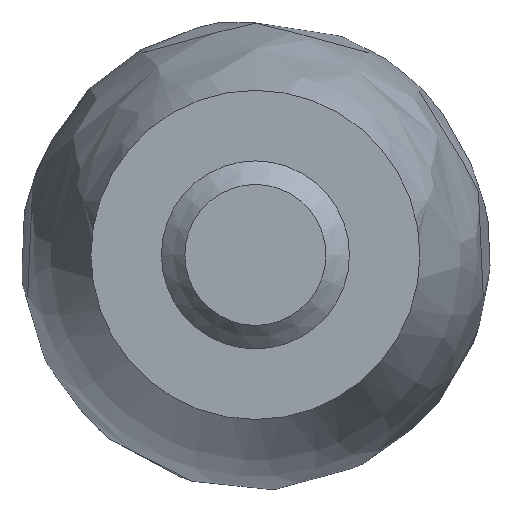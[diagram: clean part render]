
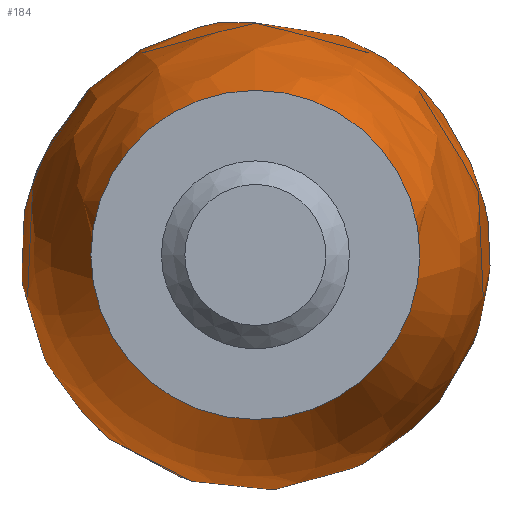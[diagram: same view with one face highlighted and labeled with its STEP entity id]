
A CAD part, left-side view. The second image highlights one B-rep face of the part: STEP entity #184.
In plain terms, the highlighted free-form (B-spline) face has degree [2, 2] with [3, 9] control points.
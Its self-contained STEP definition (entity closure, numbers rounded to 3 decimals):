
#16=(
BOUNDED_SURFACE()
B_SPLINE_SURFACE(2,2,((#358,#359,#360,#361,#362,#363,#364,#365,#366),(#367,
#368,#369,#370,#371,#372,#373,#374,#375),(#376,#377,#378,#379,#380,#381,
#382,#383,#384)),.UNSPECIFIED.,.F.,.T.,.F.)
B_SPLINE_SURFACE_WITH_KNOTS((3,3),(3,2,2,2,3),(-0.415,0.578),
(-3.142,-1.571,0.,1.571,3.142),
 .UNSPECIFIED.)
GEOMETRIC_REPRESENTATION_ITEM()
RATIONAL_B_SPLINE_SURFACE(((1.,0.707,1.,0.707,1.,
0.707,1.,0.707,1.),(0.879,0.622,
0.879,0.622,0.879,0.622,
0.879,0.622,0.879),(1.,0.707,
1.,0.707,1.,0.707,1.,0.707,1.)))
REPRESENTATION_ITEM('')
SURFACE()
);
#45=FACE_OUTER_BOUND('',#58,.T.);
#58=EDGE_LOOP('',(#166,#167,#168,#169));
#77=CIRCLE('',#236,3.305);
#78=CIRCLE('',#237,1.754);
#79=CIRCLE('',#238,20.);
#94=VERTEX_POINT('',#355);
#95=VERTEX_POINT('',#385);
#118=EDGE_CURVE('',#94,#94,#77,.T.);
#119=EDGE_CURVE('',#95,#95,#78,.T.);
#120=EDGE_CURVE('',#95,#94,#79,.T.);
#166=ORIENTED_EDGE('',*,*,#119,.F.);
#167=ORIENTED_EDGE('',*,*,#120,.T.);
#168=ORIENTED_EDGE('',*,*,#118,.T.);
#169=ORIENTED_EDGE('',*,*,#120,.F.);
#184=ADVANCED_FACE('',(#45),#16,.F.);
#236=AXIS2_PLACEMENT_3D('',#357,#301,#302);
#237=AXIS2_PLACEMENT_3D('',#386,#303,#304);
#238=AXIS2_PLACEMENT_3D('',#387,#305,#306);
#301=DIRECTION('center_axis',(1.,0.,0.));
#302=DIRECTION('ref_axis',(0.,1.,0.));
#303=DIRECTION('center_axis',(1.,0.,0.));
#304=DIRECTION('ref_axis',(0.,1.,0.));
#305=DIRECTION('center_axis',(0.,-1.,0.));
#306=DIRECTION('ref_axis',(0.,0.,1.));
#355=CARTESIAN_POINT('',(18.07,0.,3.305));
#357=CARTESIAN_POINT('Origin',(18.07,0.,0.));
#358=CARTESIAN_POINT('Ctrl Pts',(18.07,0.,
3.305));
#359=CARTESIAN_POINT('Ctrl Pts',(18.07,-3.305,3.305));
#360=CARTESIAN_POINT('Ctrl Pts',(18.07,-3.305,0.));
#361=CARTESIAN_POINT('Ctrl Pts',(18.07,-3.305,-3.305));
#362=CARTESIAN_POINT('Ctrl Pts',(18.07,0.,
-3.305));
#363=CARTESIAN_POINT('Ctrl Pts',(18.07,3.305,-3.305));
#364=CARTESIAN_POINT('Ctrl Pts',(18.07,3.305,0.));
#365=CARTESIAN_POINT('Ctrl Pts',(18.07,3.305,3.305));
#366=CARTESIAN_POINT('Ctrl Pts',(18.07,0.,
3.305));
#367=CARTESIAN_POINT('Ctrl Pts',(27.979,0.,7.667));
#368=CARTESIAN_POINT('Ctrl Pts',(27.979,-7.667,7.667));
#369=CARTESIAN_POINT('Ctrl Pts',(27.979,-7.667,0.));
#370=CARTESIAN_POINT('Ctrl Pts',(27.979,-7.667,-7.667));
#371=CARTESIAN_POINT('Ctrl Pts',(27.979,0.,-7.667));
#372=CARTESIAN_POINT('Ctrl Pts',(27.979,7.667,-7.667));
#373=CARTESIAN_POINT('Ctrl Pts',(27.979,7.667,0.));
#374=CARTESIAN_POINT('Ctrl Pts',(27.979,7.667,7.667));
#375=CARTESIAN_POINT('Ctrl Pts',(27.979,0.,7.667));
#376=CARTESIAN_POINT('Ctrl Pts',(37.049,0.,
1.754));
#377=CARTESIAN_POINT('Ctrl Pts',(37.049,-1.754,1.754));
#378=CARTESIAN_POINT('Ctrl Pts',(37.049,-1.754,0.));
#379=CARTESIAN_POINT('Ctrl Pts',(37.049,-1.754,-1.754));
#380=CARTESIAN_POINT('Ctrl Pts',(37.049,0.,
-1.754));
#381=CARTESIAN_POINT('Ctrl Pts',(37.049,1.754,-1.754));
#382=CARTESIAN_POINT('Ctrl Pts',(37.049,1.754,0.));
#383=CARTESIAN_POINT('Ctrl Pts',(37.049,1.754,1.754));
#384=CARTESIAN_POINT('Ctrl Pts',(37.049,0.,
1.754));
#385=CARTESIAN_POINT('',(37.049,0.,1.754));
#386=CARTESIAN_POINT('Origin',(37.049,0.,0.));
#387=CARTESIAN_POINT('Origin',(26.128,0.,-15.));
